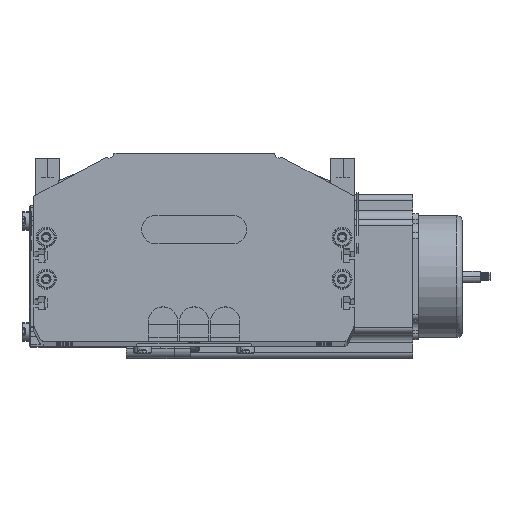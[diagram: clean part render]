
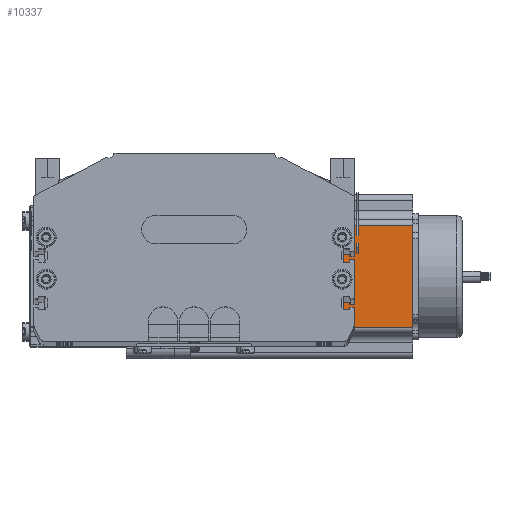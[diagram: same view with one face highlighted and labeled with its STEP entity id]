
A CAD part, top view. The second image highlights one B-rep face of the part: STEP entity #10337.
In plain terms, the highlighted planar face has unit normal (0, 0, 1) as drawn and (0, -1, 0) by its records, which use the part's own axes.
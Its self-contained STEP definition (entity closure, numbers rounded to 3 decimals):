
#10177 = VERTEX_POINT ( 'NONE', #77601 ) ;
#10241 = ORIENTED_EDGE ( 'NONE', *, *, #10353, .T. ) ;
#10248 = VERTEX_POINT ( 'NONE', #77858 ) ;
#10249 = VERTEX_POINT ( 'NONE', #77825 ) ;
#10333 = EDGE_CURVE ( 'NONE', #10248, #10249, #65327, .T. ) ;
#10334 = ORIENTED_EDGE ( 'NONE', *, *, #10367, .T. ) ;
#10337 = ADVANCED_FACE ( 'NONE', ( #65316 ), #65329, .F. ) ;
#10350 = ORIENTED_EDGE ( 'NONE', *, *, #10333, .F. ) ;
#10351 = VERTEX_POINT ( 'NONE', #65244 ) ;
#10353 = EDGE_CURVE ( 'NONE', #10248, #10177, #65230, .T. ) ;
#10366 = ORIENTED_EDGE ( 'NONE', *, *, #10529, .T. ) ;
#10367 = EDGE_CURVE ( 'NONE', #10351, #10249, #65454, .T. ) ;
#10399 = EDGE_LOOP ( 'NONE', ( #10366, #10334, #10350, #10241 ) ) ;
#10529 = EDGE_CURVE ( 'NONE', #10177, #10351, #65495, .T. ) ;
#65229 = CARTESIAN_POINT ( 'NONE',  ( 16.16, 0., 116.5 ) ) ;
#65230 = LINE ( 'NONE', #65229, #65283 ) ;
#65233 = AXIS2_PLACEMENT_3D ( 'NONE', #65310, #65305, #65304 ) ;
#65244 = CARTESIAN_POINT ( 'NONE',  ( 69.74, 0., 0. ) ) ;
#65282 = DIRECTION ( 'NONE',  ( 0., 0., -1. ) ) ;
#65283 = VECTOR ( 'NONE', #65282, 1000. ) ;
#65304 = DIRECTION ( 'NONE',  ( 0., 0., 1. ) ) ;
#65305 = DIRECTION ( 'NONE',  ( 0., 1., 0. ) ) ;
#65310 = CARTESIAN_POINT ( 'NONE',  ( 0., 0., 116.5 ) ) ;
#65316 = FACE_OUTER_BOUND ( 'NONE', #10399, .T. ) ;
#65317 = DIRECTION ( 'NONE',  ( 1., 0., 0. ) ) ;
#65318 = VECTOR ( 'NONE', #65317, 1000. ) ;
#65319 = CARTESIAN_POINT ( 'NONE',  ( 0., 0., 116.5 ) ) ;
#65327 = LINE ( 'NONE', #65319, #65318 ) ;
#65329 = PLANE ( 'NONE',  #65233 ) ;
#65434 = DIRECTION ( 'NONE',  ( 0., 0., 1. ) ) ;
#65454 = LINE ( 'NONE', #65455, #65477 ) ;
#65455 = CARTESIAN_POINT ( 'NONE',  ( 69.74, 0., 116.5 ) ) ;
#65477 = VECTOR ( 'NONE', #65434, 1000. ) ;
#65495 = LINE ( 'NONE', #65675, #65673 ) ;
#65672 = DIRECTION ( 'NONE',  ( 1., 0., 0. ) ) ;
#65673 = VECTOR ( 'NONE', #65672, 1000. ) ;
#65675 = CARTESIAN_POINT ( 'NONE',  ( 0., 0., 0. ) ) ;
#77601 = CARTESIAN_POINT ( 'NONE',  ( 16.16, 0., 0. ) ) ;
#77825 = CARTESIAN_POINT ( 'NONE',  ( 69.74, 0., 116.5 ) ) ;
#77858 = CARTESIAN_POINT ( 'NONE',  ( 16.16, 0., 116.5 ) ) ;
